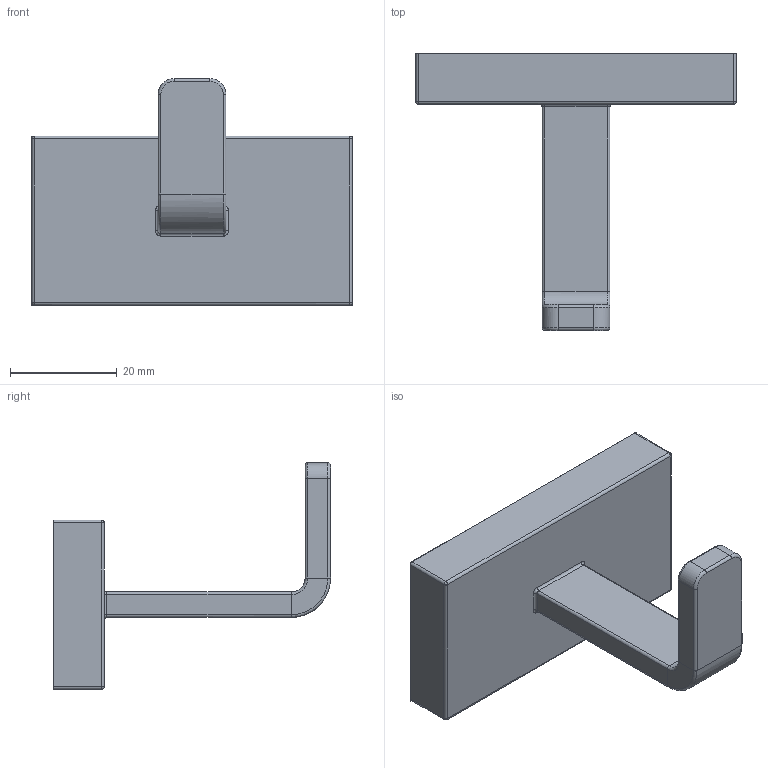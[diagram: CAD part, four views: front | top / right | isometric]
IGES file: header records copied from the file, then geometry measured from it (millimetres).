
Start section: Autodesk Alias AutoStudio 2020 (Build: 201905142046-4cbec609ad) Autodesk Translation Framework 8.4.1.1053
Global section: file name: 12133110; native system: unknown; preprocessor: unknown; author: unknown; organization: unknown; date: 20220817.171244; units: millimetre
Bounding box: 60 x 51.88 x 42.45 mm (x, y, z)
Surface area: 15326.2 mm2 (no closed solid volume)
Topology: 0 solids, 2 shells, 63 faces, 140 edges, 76 vertices
Faces by surface type: bspline 63
